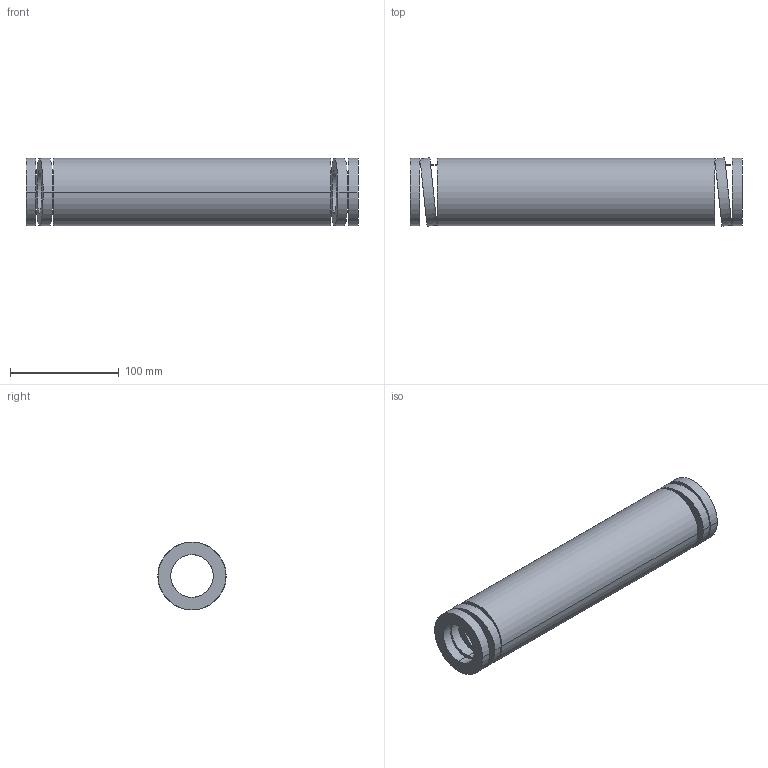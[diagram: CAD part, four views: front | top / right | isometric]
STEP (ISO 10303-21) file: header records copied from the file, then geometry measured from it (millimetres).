
FILE_DESCRIPTION(('CATIA V5 STEP Exchange'),'2;1');
FILE_NAME('C:\Users\Utente\Desktop\IO LAVORO\3D X SITO CF\X SITO\3D files 392B\392-B63-305.stp','2021-08-13T12:38:48+00:00',('none'),('none'),'CATIA Version 5 Release 20 GA (IN-10)','CATIA V5 STEP AP203','none');
FILE_SCHEMA(('CONFIG_CONTROL_DESIGN'));
Length unit declared in the file: millimetre
Products named in the file (1): 392-B63-305
Bounding box: 305 x 62.81 x 62.2 mm (x, y, z)
Volume: 533514.5 mm3; surface area: 111117.3 mm2
Topology: 1 solids, 1 shells, 38 faces, 92 edges, 64 vertices
Faces by surface type: cylinder 28, plane 10
Entity records: 1554 total; most frequent: CARTESIAN_POINT 663, ORIENTED_EDGE 184, DIRECTION 130, EDGE_CURVE 92, AXIS2_PLACEMENT_3D 65, VERTEX_POINT 64, EDGE_LOOP 56, ADVANCED_FACE 38
